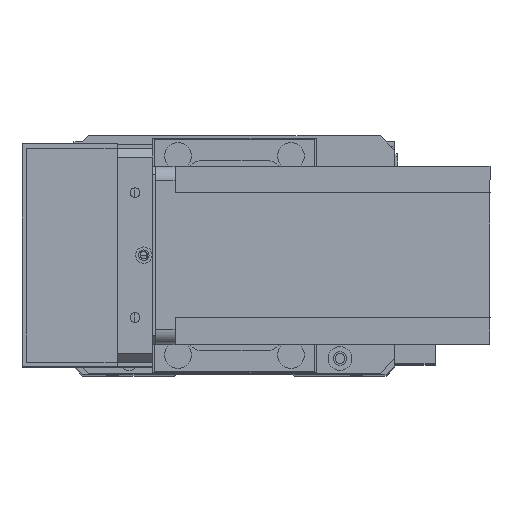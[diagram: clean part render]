
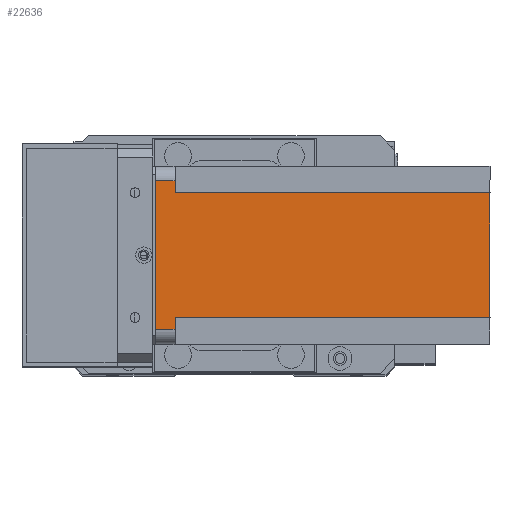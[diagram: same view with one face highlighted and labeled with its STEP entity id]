
A CAD part, top view. The second image highlights one B-rep face of the part: STEP entity #22636.
In plain terms, the highlighted planar face has unit normal (0, 0, 1) as drawn and (1, 0, 0) by its records, which use the part's own axes.
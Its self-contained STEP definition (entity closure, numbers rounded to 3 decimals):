
#339 = AXIS2_PLACEMENT_3D ( 'NONE', #23623, #3404, #19275 ) ;
#573 = EDGE_CURVE ( 'NONE', #10600, #4763, #20424, .T. ) ;
#1118 = DIRECTION ( 'NONE',  ( 0., 0., 1. ) ) ;
#1123 = PLANE ( 'NONE',  #339 ) ;
#1711 = EDGE_CURVE ( 'NONE', #10578, #17299, #25299, .T. ) ;
#1823 = LINE ( 'NONE', #8432, #7137 ) ;
#2053 = CARTESIAN_POINT ( 'NONE',  ( 60., 0., 0. ) ) ;
#2477 = VECTOR ( 'NONE', #22288, 1000. ) ;
#2985 = CARTESIAN_POINT ( 'NONE',  ( 60., 5., -112.5 ) ) ;
#3404 = DIRECTION ( 'NONE',  ( 1., 0., 0. ) ) ;
#3828 = CARTESIAN_POINT ( 'NONE',  ( 60., 51., -6.5 ) ) ;
#3889 = ORIENTED_EDGE ( 'NONE', *, *, #573, .F. ) ;
#3908 = EDGE_CURVE ( 'NONE', #15346, #13344, #1823, .T. ) ;
#4763 = VERTEX_POINT ( 'NONE', #3828 ) ;
#6991 = LINE ( 'NONE', #18823, #12289 ) ;
#7137 = VECTOR ( 'NONE', #28612, 1000. ) ;
#8432 = CARTESIAN_POINT ( 'NONE',  ( 60., 0., -6.5 ) ) ;
#8578 = LINE ( 'NONE', #19268, #26625 ) ;
#8641 = ORIENTED_EDGE ( 'NONE', *, *, #3908, .F. ) ;
#8832 = ORIENTED_EDGE ( 'NONE', *, *, #9986, .T. ) ;
#9277 = CARTESIAN_POINT ( 'NONE',  ( 60., 5., -6.5 ) ) ;
#9736 = VECTOR ( 'NONE', #28990, 1000. ) ;
#9986 = EDGE_CURVE ( 'NONE', #10600, #17299, #20584, .T. ) ;
#10578 = VERTEX_POINT ( 'NONE', #17795 ) ;
#10600 = VERTEX_POINT ( 'NONE', #12540 ) ;
#11006 = ORIENTED_EDGE ( 'NONE', *, *, #28664, .F. ) ;
#11821 = CARTESIAN_POINT ( 'NONE',  ( 60., 55., 0. ) ) ;
#12103 = DIRECTION ( 'NONE',  ( 0., 0., -1. ) ) ;
#12143 = ORIENTED_EDGE ( 'NONE', *, *, #20761, .F. ) ;
#12289 = VECTOR ( 'NONE', #27787, 1000. ) ;
#12388 = CARTESIAN_POINT ( 'NONE',  ( 60., 51., -112.5 ) ) ;
#12540 = CARTESIAN_POINT ( 'NONE',  ( 60., 55., -6.5 ) ) ;
#12587 = CARTESIAN_POINT ( 'NONE',  ( 60., 9., -6.5 ) ) ;
#13060 = VECTOR ( 'NONE', #12103, 1000. ) ;
#13344 = VERTEX_POINT ( 'NONE', #9277 ) ;
#13463 = EDGE_CURVE ( 'NONE', #10578, #13344, #19096, .T. ) ;
#14016 = VERTEX_POINT ( 'NONE', #18734 ) ;
#14353 = VECTOR ( 'NONE', #22890, 1000. ) ;
#15346 = VERTEX_POINT ( 'NONE', #12587 ) ;
#15367 = EDGE_LOOP ( 'NONE', ( #3889, #8832, #25986, #23738, #8641, #12143, #17558, #11006 ) ) ;
#15761 = LINE ( 'NONE', #21971, #9736 ) ;
#17299 = VERTEX_POINT ( 'NONE', #11821 ) ;
#17558 = ORIENTED_EDGE ( 'NONE', *, *, #26115, .T. ) ;
#17735 = CARTESIAN_POINT ( 'NONE',  ( 60., 55., -112.5 ) ) ;
#17795 = CARTESIAN_POINT ( 'NONE',  ( 60., 5., 0. ) ) ;
#18734 = CARTESIAN_POINT ( 'NONE',  ( 60., 9., -112.5 ) ) ;
#18823 = CARTESIAN_POINT ( 'NONE',  ( 60., 0., -112.5 ) ) ;
#19096 = LINE ( 'NONE', #2985, #13060 ) ;
#19114 = DIRECTION ( 'NONE',  ( 0., 1., 0. ) ) ;
#19268 = CARTESIAN_POINT ( 'NONE',  ( 60., 9., -112.5 ) ) ;
#19273 = VECTOR ( 'NONE', #19114, 1000. ) ;
#19275 = DIRECTION ( 'NONE',  ( 0., 1., 0. ) ) ;
#20424 = LINE ( 'NONE', #25238, #14353 ) ;
#20584 = LINE ( 'NONE', #17735, #2477 ) ;
#20761 = EDGE_CURVE ( 'NONE', #14016, #15346, #8578, .T. ) ;
#21364 = VERTEX_POINT ( 'NONE', #12388 ) ;
#21971 = CARTESIAN_POINT ( 'NONE',  ( 60., 51., -112.5 ) ) ;
#22288 = DIRECTION ( 'NONE',  ( 0., 0., 1. ) ) ;
#22337 = FACE_OUTER_BOUND ( 'NONE', #15367, .T. ) ;
#22636 = ADVANCED_FACE ( 'NONE', ( #22337 ), #1123, .T. ) ;
#22890 = DIRECTION ( 'NONE',  ( 0., -1., 0. ) ) ;
#23623 = CARTESIAN_POINT ( 'NONE',  ( 60., 0., -112.5 ) ) ;
#23738 = ORIENTED_EDGE ( 'NONE', *, *, #13463, .T. ) ;
#25238 = CARTESIAN_POINT ( 'NONE',  ( 60., 60., -6.5 ) ) ;
#25299 = LINE ( 'NONE', #2053, #19273 ) ;
#25986 = ORIENTED_EDGE ( 'NONE', *, *, #1711, .F. ) ;
#26115 = EDGE_CURVE ( 'NONE', #14016, #21364, #6991, .T. ) ;
#26625 = VECTOR ( 'NONE', #1118, 1000. ) ;
#27787 = DIRECTION ( 'NONE',  ( 0., 1., 0. ) ) ;
#28612 = DIRECTION ( 'NONE',  ( 0., -1., 0. ) ) ;
#28664 = EDGE_CURVE ( 'NONE', #4763, #21364, #15761, .T. ) ;
#28990 = DIRECTION ( 'NONE',  ( 0., 0., -1. ) ) ;
